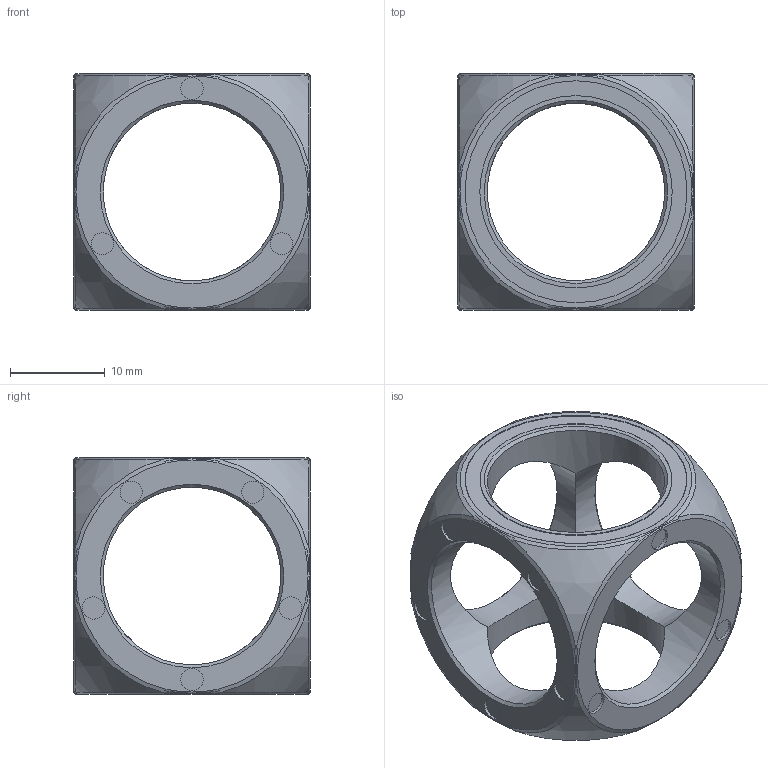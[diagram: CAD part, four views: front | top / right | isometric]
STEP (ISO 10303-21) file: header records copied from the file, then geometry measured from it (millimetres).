
FILE_DESCRIPTION(/* description */ (''),/* implementation_level */ '2;1');
FILE_NAME(/* name */ 'E:/Google Drive/Applied CAx/Webinar 2016/parts/advanced-self-balancing-die-alternate-form-1.snapshot.3/Ultra Dice v2.step',/* time_stamp */ '2016-09-29T07:21:02-07:00',/* author */ (''),/* organization */ (''),/* preprocessor_version */ 'ST-DEVELOPER v16.5',/* originating_system */ 'Autodesk Translation Framework v5.1.0.2740',/* authorisation */ '');
FILE_SCHEMA (('AUTOMOTIVE_DESIGN { 1 0 10303 214 3 1 1 }'));
Length unit declared in the file: centimetre
Products named in the file (1): Ultra Dice v2
Bounding box: 25 x 25 x 25 mm (x, y, z)
Volume: 3627.3 mm3; surface area: 3174 mm2
Topology: 1 solids, 1 shells, 166 faces, 372 edges, 226 vertices
Faces by surface type: bspline 72, cone 30, plane 28, cylinder 28, sphere 8
Full cylindrical faces by diameter (mm): 2.344 x20, 18.75 x6, 20.312 x1, 23.438 x1
Entity records: 7003 total; most frequent: CARTESIAN_POINT 3599, ORIENTED_EDGE 664, DIRECTION 614, EDGE_CURVE 332, AXIS2_PLACEMENT_3D 259, EDGE_LOOP 228, VERTEX_POINT 220, FACE_OUTER_BOUND 166
